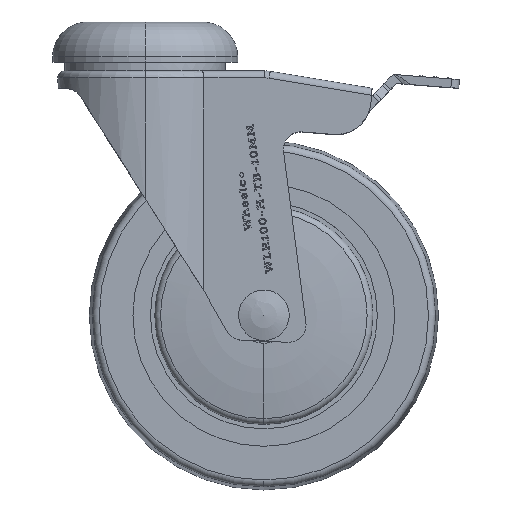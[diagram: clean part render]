
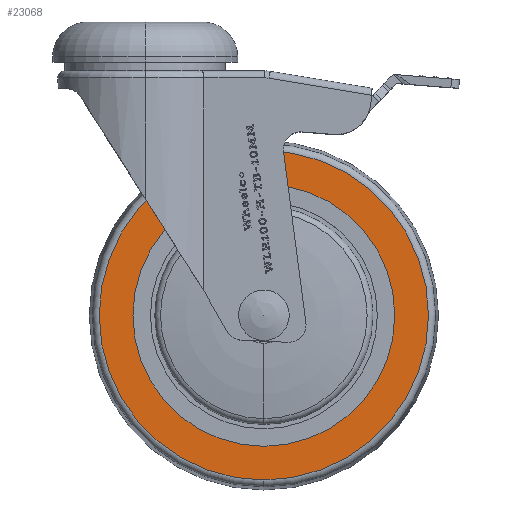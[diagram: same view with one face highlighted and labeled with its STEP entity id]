
A CAD part, top view. The second image highlights one B-rep face of the part: STEP entity #23068.
In plain terms, the highlighted planar face has unit normal (0, 0, 1) as drawn and (0, 1, 0) by its records, which use the part's own axes.
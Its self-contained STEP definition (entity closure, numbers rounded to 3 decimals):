
#204 = EDGE_CURVE ( 'NONE', #4130, #6256, #18604, .T. ) ;
#1640 = DIRECTION ( 'NONE',  ( 0., -1., 0. ) ) ;
#2625 = AXIS2_PLACEMENT_3D ( 'NONE', #14864, #3388, #3538 ) ;
#3388 = DIRECTION ( 'NONE',  ( 0., 1., 0. ) ) ;
#3538 = DIRECTION ( 'NONE',  ( 0., 0., 1. ) ) ;
#4130 = VERTEX_POINT ( 'NONE', #15336 ) ;
#4278 = ORIENTED_EDGE ( 'NONE', *, *, #204, .T. ) ;
#6213 = CARTESIAN_POINT ( 'NONE',  ( 49., 12.5, 0. ) ) ;
#6256 = VERTEX_POINT ( 'NONE', #6415 ) ;
#6415 = CARTESIAN_POINT ( 'NONE',  ( 0., 12.5, 37.5 ) ) ;
#8668 = CARTESIAN_POINT ( 'NONE',  ( 0., 12.5, 0. ) ) ;
#10698 = EDGE_CURVE ( 'NONE', #15565, #12495, #21728, .T. ) ;
#12209 = CARTESIAN_POINT ( 'NONE',  ( 0., 12.5, 47.154 ) ) ;
#12495 = VERTEX_POINT ( 'NONE', #23810 ) ;
#14632 = EDGE_CURVE ( 'NONE', #6256, #4130, #20447, .T. ) ;
#14864 = CARTESIAN_POINT ( 'NONE',  ( 0., 12.5, 0. ) ) ;
#15336 = CARTESIAN_POINT ( 'NONE',  ( 0., 12.5, -37.5 ) ) ;
#15565 = VERTEX_POINT ( 'NONE', #12209 ) ;
#16580 = DIRECTION ( 'NONE',  ( 0., 0., 1. ) ) ;
#17431 = DIRECTION ( 'NONE',  ( 0., 0., 1. ) ) ;
#17700 = PLANE ( 'NONE',  #23707 ) ;
#17854 = FACE_OUTER_BOUND ( 'NONE', #27666, .T. ) ;
#18031 = DIRECTION ( 'NONE',  ( 0., -1., 0. ) ) ;
#18226 = EDGE_LOOP ( 'NONE', ( #19207, #4278 ) ) ;
#18604 = CIRCLE ( 'NONE', #22622, 37.5 ) ;
#19043 = DIRECTION ( 'NONE',  ( 0., 1., 0. ) ) ;
#19207 = ORIENTED_EDGE ( 'NONE', *, *, #14632, .T. ) ;
#19230 = EDGE_CURVE ( 'NONE', #12495, #15565, #20103, .T. ) ;
#19871 = DIRECTION ( 'NONE',  ( 0., 1., 0. ) ) ;
#20103 = CIRCLE ( 'NONE', #21579, 47.154 ) ;
#20166 = FACE_BOUND ( 'NONE', #18226, .T. ) ;
#20447 = CIRCLE ( 'NONE', #29772, 37.5 ) ;
#21579 = AXIS2_PLACEMENT_3D ( 'NONE', #21828, #19043, #16580 ) ;
#21728 = CIRCLE ( 'NONE', #2625, 47.154 ) ;
#21828 = CARTESIAN_POINT ( 'NONE',  ( 0., 12.5, 0. ) ) ;
#22363 = CARTESIAN_POINT ( 'NONE',  ( 0., 12.5, 0. ) ) ;
#22622 = AXIS2_PLACEMENT_3D ( 'NONE', #22363, #1640, #17431 ) ;
#22626 = DIRECTION ( 'NONE',  ( 0., 0., 1. ) ) ;
#23068 = ADVANCED_FACE ( 'NONE', ( #17854, #20166 ), #17700, .T. ) ;
#23707 = AXIS2_PLACEMENT_3D ( 'NONE', #6213, #19871, #22626 ) ;
#23810 = CARTESIAN_POINT ( 'NONE',  ( 0., 12.5, -47.154 ) ) ;
#24811 = DIRECTION ( 'NONE',  ( 0., 0., 1. ) ) ;
#25661 = ORIENTED_EDGE ( 'NONE', *, *, #10698, .T. ) ;
#25814 = ORIENTED_EDGE ( 'NONE', *, *, #19230, .T. ) ;
#27666 = EDGE_LOOP ( 'NONE', ( #25661, #25814 ) ) ;
#29772 = AXIS2_PLACEMENT_3D ( 'NONE', #8668, #18031, #24811 ) ;
